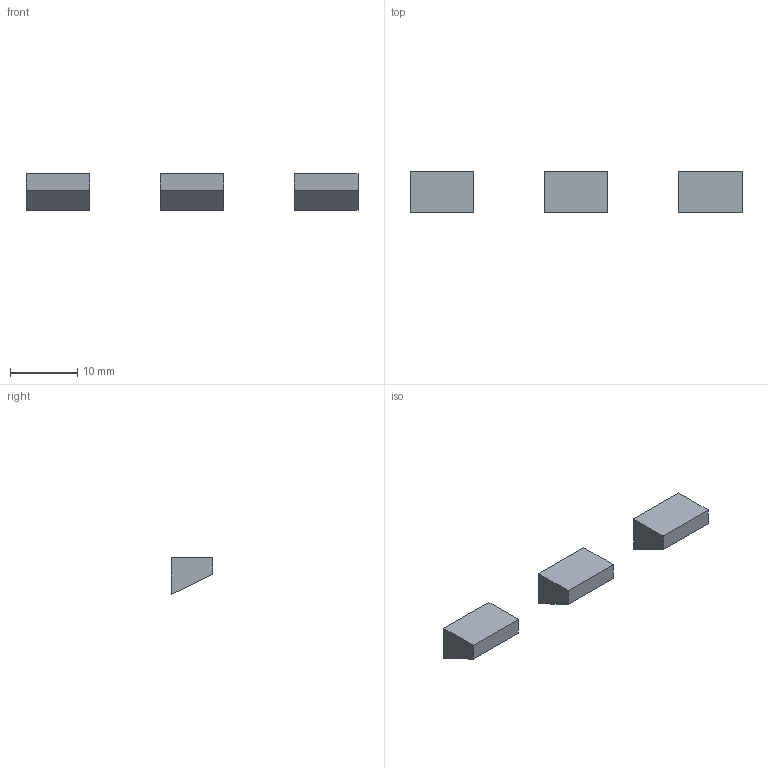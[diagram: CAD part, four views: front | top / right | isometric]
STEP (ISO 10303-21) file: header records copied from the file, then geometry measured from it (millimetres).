
FILE_DESCRIPTION(('Open CASCADE Model'),'2;1');
FILE_NAME('Open CASCADE Shape Model','2026-10-15T19:48:38',('Author'),( 'Open CASCADE'),'Open CASCADE STEP processor 7.9','Open CASCADE 7.9' ,'Unknown');
FILE_SCHEMA(('AUTOMOTIVE_DESIGN { 1 0 10303 214 1 1 1 1 }'));
Length unit declared in the file: millimetre
Products named in the file (4): Open CASCADE STEP translator 7.9 15; Open CASCADE STEP translator 7.9 15.1; Open CASCADE STEP translator 7.9 15.2; Open CASCADE STEP translator 7.9 15.3
Assembly tree (3 placements, depth 2):
  Open CASCADE STEP translator 7.9 15
    Open CASCADE STEP translator 7.9 15.1
    Open CASCADE STEP translator 7.9 15.2
    Open CASCADE STEP translator 7.9 15.3
Bounding box: 49.5 x 6.2 x 5.5 mm (x, y, z)
Volume: 706.8 mm3; surface area: 749.8 mm2
Topology: 3 solids, 3 shells, 18 faces, 36 edges, 24 vertices
Faces by surface type: plane 18
Entity records: 988 total; most frequent: CARTESIAN_POINT 154, DIRECTION 152, LINE 108, VECTOR 108, ORIENTED_EDGE 72, PCURVE 72, DEFINITIONAL_REPRESENTATION 72, EDGE_CURVE 36
